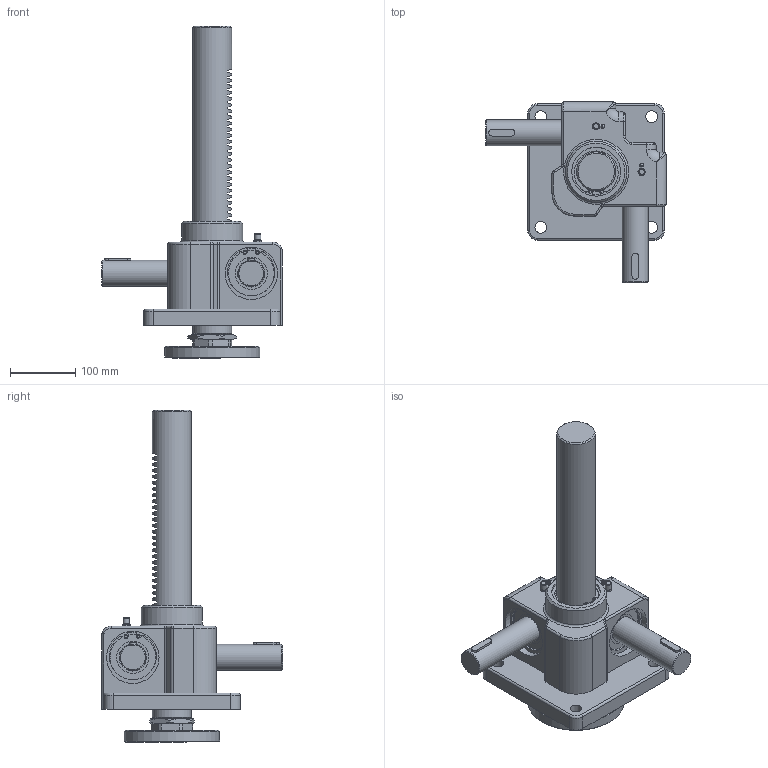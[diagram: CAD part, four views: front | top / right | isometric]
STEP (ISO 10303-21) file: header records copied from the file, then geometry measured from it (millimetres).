
FILE_DESCRIPTION(('STEP AP203'),'1');
FILE_NAME('SP1-20000FU-300ST.stp','2022-06-15T06:58:33',(' '),(' '),'Spatial InterOp 3D',' ',' ');
FILE_SCHEMA(('CONFIG_CONTROL_DESIGN'));
Length unit declared in the file: millimetre
Products named in the file (20): SP1-20000FU-300ST; Rack Gear(SP-20000F); Flange-Part; Flange; Joint; Nut; Body-Part; #607; SnapRing-78Pie; SnapRing-83.5Pie; Du Bush; Key; Nipple; Shaft(SP1-20000); Gear Box(SP-20000); RJ05-4SCJ-610X600-100ST_CAP; LABEL-B.1; ___; 파트18; __
Assembly tree (26 placements, depth 5):
  SP1-20000FU-300ST
    Rack Gear(SP-20000F)
    Flange-Part
      Flange
      Joint
      Nut
    Body-Part
      #607  x2
      SnapRing-78Pie  x2
      SnapRing-83.5Pie  x2
      Du Bush  x2
      Key  x2
      Nipple  x2
      Shaft(SP1-20000)  x2
      Gear Box(SP-20000)
    __
      ___
        RJ05-4SCJ-610X600-100ST_CAP
          LABEL-B.1
        파트18
Bounding box: 278 x 278.25 x 510 mm (x, y, z)
Volume: 4102699.2 mm3; surface area: 608917.7 mm2
Topology: 28 solids, 28 shells, 2677 faces, 7329 edges, 4707 vertices
Faces by surface type: plane 2116, cylinder 334, sphere 88, torus 66, cone 51, bspline 16, revolution 6
Full cylindrical faces by diameter (mm): 4.379 x4, 4.69 x4, 5.6 x2, 8 x2, 9.886 x2, 18 x8, 30 x2, 38 x1, 40 x4, 44 x2, 45 x2, 48 x1, 49.543 x4, 60 x3, 64 x2, 65 x1, 70 x4, 70.313 x4, 73.5 x1, 75 x3, 78 x2, 80 x4, 80.4 x2, 83.5 x2, 94 x1, 147 x1
Entity records: 82658 total; most frequent: CARTESIAN_POINT 17280, ORIENTED_EDGE 13570, DIRECTION 12697, EDGE_CURVE 6785, LINE 5723, VECTOR 5723, VERTEX_POINT 4455, AXIS2_PLACEMENT_3D 3485
